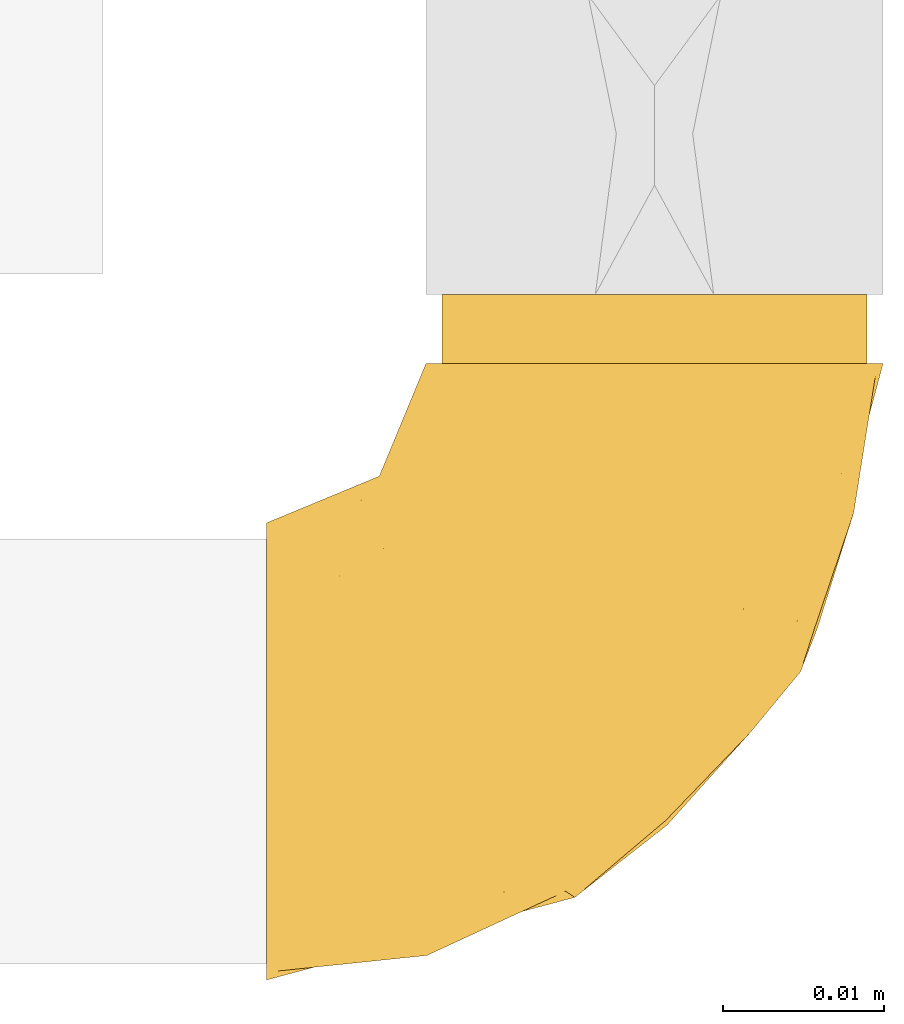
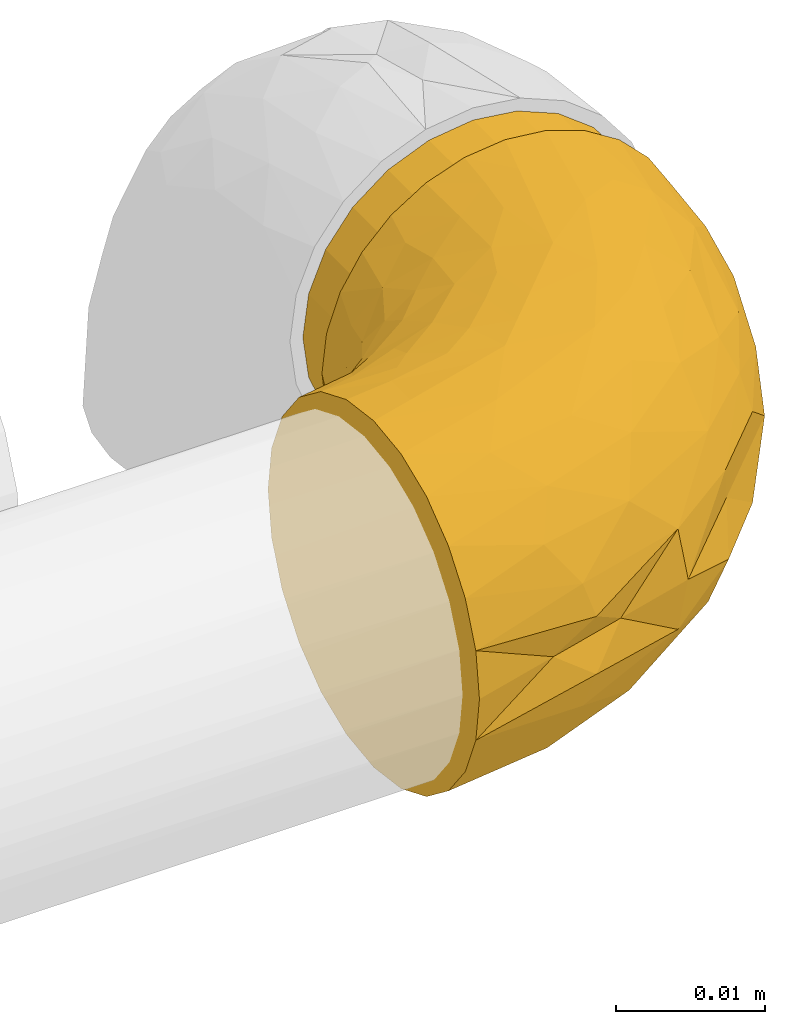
# One storey, part 3 of 4: 2 coverings.
"""IFC2X3 building model written with IfcOpenShell, lengths in metres."""

from ifc_helpers import new_model, entity, si_unit, converted_unit, derived_unit, direction, frame, origin, place, context, subcontext, project, spatial, faceted_brep, material, type_object, element, save


model = new_model("IFC2X3")

# Units and contexts
model_context = context("Model", 3, precision=1e-05, world=origin(), true_north=direction((6.123031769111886e-17, 1.0)))
body_context = subcontext(model_context, "Body", "Model", "MODEL_VIEW")
ifc_project = project(units=[si_unit("LENGTHUNIT", "METRE"), si_unit("AREAUNIT", "SQUARE_METRE"), si_unit("VOLUMEUNIT", "CUBIC_METRE"), converted_unit("PLANEANGLEUNIT", "DEGREE", entity("IfcPlaneAngleMeasure", 0.017453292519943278), si_unit("PLANEANGLEUNIT", "RADIAN"), dimensions=[0, 0, 0, 0, 0, 0, 0]), si_unit("MASSUNIT", "GRAM", prefix="KILO"), derived_unit("MASSDENSITYUNIT", [(si_unit("MASSUNIT", "GRAM", prefix="KILO"), 1), (si_unit("LENGTHUNIT", "METRE"), -3)]), derived_unit("IONCONCENTRATIONUNIT", [(si_unit("MASSUNIT", "GRAM", prefix="KILO"), 1), (si_unit("LENGTHUNIT", "METRE"), -3)]), derived_unit("MOMENTOFINERTIAUNIT", [(si_unit("LENGTHUNIT", "METRE"), 4)]), si_unit("TIMEUNIT", "SECOND"), si_unit("FREQUENCYUNIT", "HERTZ"), si_unit("THERMODYNAMICTEMPERATUREUNIT", "DEGREE_CELSIUS"), derived_unit("THERMALTRANSMITTANCEUNIT", [(si_unit("MASSUNIT", "GRAM", prefix="KILO"), 1), (si_unit("THERMODYNAMICTEMPERATUREUNIT", "KELVIN"), -1), (si_unit("TIMEUNIT", "SECOND"), -3)]), derived_unit("THERMALCONDUCTANCEUNIT", [(si_unit("MASSUNIT", "GRAM", prefix="KILO"), 1), (si_unit("THERMODYNAMICTEMPERATUREUNIT", "KELVIN"), -1), (si_unit("TIMEUNIT", "SECOND"), -3), (si_unit("LENGTHUNIT", "METRE"), 1)]), derived_unit("VOLUMETRICFLOWRATEUNIT", [(si_unit("LENGTHUNIT", "METRE", prefix="DECI"), 3), (si_unit("TIMEUNIT", "SECOND"), -1)]), derived_unit("MASSFLOWRATEUNIT", [(si_unit("MASSUNIT", "GRAM", prefix="KILO"), 1), (si_unit("TIMEUNIT", "SECOND"), -1)]), derived_unit("ROTATIONALFREQUENCYUNIT", [(si_unit("TIMEUNIT", "SECOND"), -1)]), si_unit("ELECTRICCURRENTUNIT", "AMPERE"), si_unit("ELECTRICVOLTAGEUNIT", "VOLT"), si_unit("POWERUNIT", "WATT"), si_unit("FORCEUNIT", "NEWTON", prefix="KILO"), si_unit("ILLUMINANCEUNIT", "LUX"), si_unit("LUMINOUSFLUXUNIT", "LUMEN"), si_unit("LUMINOUSINTENSITYUNIT", "CANDELA"), si_unit("ENERGYUNIT", "JOULE"), derived_unit("USERDEFINED", [(si_unit("MASSUNIT", "GRAM", prefix="KILO"), -1), (si_unit("LENGTHUNIT", "METRE"), -2), (si_unit("TIMEUNIT", "SECOND"), 3), (si_unit("LUMINOUSFLUXUNIT", "LUMEN"), 1)]), derived_unit("USERDEFINED", [(si_unit("MASSUNIT", "GRAM", prefix="KILO"), 1), (si_unit("TIMEUNIT", "SECOND"), -3), (si_unit("LENGTHUNIT", "METRE"), 3), (si_unit("ELECTRICCURRENTUNIT", "AMPERE"), -2)]), derived_unit("SOUNDPOWERUNIT", [(si_unit("MASSUNIT", "GRAM", prefix="KILO"), 1), (si_unit("TIMEUNIT", "SECOND"), -3), (si_unit("LENGTHUNIT", "METRE"), 2)]), derived_unit("SOUNDPRESSUREUNIT", [(si_unit("MASSUNIT", "GRAM", prefix="KILO"), 1), (si_unit("LENGTHUNIT", "METRE"), -1), (si_unit("TIMEUNIT", "SECOND"), -2)]), derived_unit("LINEARVELOCITYUNIT", [(si_unit("LENGTHUNIT", "METRE"), 1), (si_unit("TIMEUNIT", "SECOND"), -1)]), si_unit("PRESSUREUNIT", "PASCAL"), derived_unit("USERDEFINED", [(si_unit("MASSUNIT", "GRAM", prefix="KILO"), 1), (si_unit("LENGTHUNIT", "METRE"), -2), (si_unit("TIMEUNIT", "SECOND"), -2)]), derived_unit("LINEARFORCEUNIT", [(si_unit("MASSUNIT", "GRAM", prefix="KILO"), 1), (si_unit("TIMEUNIT", "SECOND"), -2)]), derived_unit("PLANARFORCEUNIT", [(si_unit("MASSUNIT", "GRAM", prefix="KILO"), 1), (si_unit("LENGTHUNIT", "METRE"), -1), (si_unit("TIMEUNIT", "SECOND"), -2)]), derived_unit("SPECIFICHEATCAPACITYUNIT", [(si_unit("THERMODYNAMICTEMPERATUREUNIT", "KELVIN"), -1), (si_unit("LENGTHUNIT", "METRE"), 2), (si_unit("TIMEUNIT", "SECOND"), -2)]), derived_unit("HEATFLUXDENSITYUNIT", [(si_unit("MASSUNIT", "GRAM", prefix="KILO"), 1), (si_unit("TIMEUNIT", "SECOND"), -3)]), derived_unit("HEATINGVALUEUNIT", [(si_unit("LENGTHUNIT", "METRE"), 2), (si_unit("TIMEUNIT", "SECOND"), -2)]), derived_unit("VAPORPERMEABILITYUNIT", [(si_unit("LENGTHUNIT", "METRE"), -1), (si_unit("TIMEUNIT", "SECOND"), 1)]), derived_unit("DYNAMICVISCOSITYUNIT", [(si_unit("MASSUNIT", "GRAM", prefix="KILO"), 1), (si_unit("TIMEUNIT", "SECOND"), -1), (si_unit("LENGTHUNIT", "METRE"), -1)]), derived_unit("THERMALEXPANSIONCOEFFICIENTUNIT", [(si_unit("THERMODYNAMICTEMPERATUREUNIT", "KELVIN"), -1)]), derived_unit("MODULUSOFELASTICITYUNIT", [(si_unit("MASSUNIT", "GRAM", prefix="KILO"), 1), (si_unit("LENGTHUNIT", "METRE"), -1), (si_unit("TIMEUNIT", "SECOND"), -2)]), derived_unit("ISOTHERMALMOISTURECAPACITYUNIT", [(si_unit("MASSUNIT", "GRAM", prefix="KILO"), -1), (si_unit("LENGTHUNIT", "METRE"), 3)]), derived_unit("MOISTUREDIFFUSIVITYUNIT", [(si_unit("TIMEUNIT", "SECOND"), -1), (si_unit("LENGTHUNIT", "METRE"), 2)]), derived_unit("MASSPERLENGTHUNIT", [(si_unit("MASSUNIT", "GRAM", prefix="KILO"), 1), (si_unit("LENGTHUNIT", "METRE"), -1)]), derived_unit("THERMALRESISTANCEUNIT", [(si_unit("MASSUNIT", "GRAM", prefix="KILO"), -1), (si_unit("TIMEUNIT", "SECOND"), 3), (si_unit("THERMODYNAMICTEMPERATUREUNIT", "KELVIN"), 1)]), derived_unit("ACCELERATIONUNIT", [(si_unit("LENGTHUNIT", "METRE"), 1), (si_unit("TIMEUNIT", "SECOND"), -2)]), derived_unit("ANGULARVELOCITYUNIT", [(si_unit("TIMEUNIT", "SECOND"), -1), (si_unit("PLANEANGLEUNIT", "RADIAN"), 1)]), derived_unit("LINEARSTIFFNESSUNIT", [(si_unit("MASSUNIT", "GRAM", prefix="KILO"), 1), (si_unit("TIMEUNIT", "SECOND"), -2)]), derived_unit("WARPINGCONSTANTUNIT", [(si_unit("LENGTHUNIT", "METRE"), 6)]), derived_unit("LINEARMOMENTUNIT", [(si_unit("MASSUNIT", "GRAM", prefix="KILO"), 1), (si_unit("LENGTHUNIT", "METRE"), 1), (si_unit("TIMEUNIT", "SECOND"), -2)]), derived_unit("TORQUEUNIT", [(si_unit("MASSUNIT", "GRAM", prefix="KILO"), 1), (si_unit("LENGTHUNIT", "METRE"), 2), (si_unit("TIMEUNIT", "SECOND"), -2)])], contexts=[model_context])

# Site, building, storey
site_placement = place(None, origin())
site = spatial("IfcSite", under=ifc_project, at=site_placement, Name="Default", CompositionType="ELEMENT")
building_placement = place(site_placement, origin())
building = spatial("IfcBuilding", under=site, at=building_placement, CompositionType="ELEMENT")
storey_placement = place(building_placement, frame((0.0, 0.0, 2.4999999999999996)))
storey = spatial("IfcBuildingStorey", under=building, at=storey_placement, Name="Niveau 1", CompositionType="ELEMENT", Elevation=2.4999999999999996)

# Coverings
ifc_material = material(Name="Matériau du rendu 255-255-255")
covering_type = type_object("IfcCoveringType", Name="Isolation des canalisations:Par défaut", PredefinedType="INSULATION")
covering_1_placement = place(storey_placement, frame((-13.600996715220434, 2.7237312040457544, -0.07079527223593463)))
element("IfcCovering", 1, at=covering_1_placement, inside=storey, type_object=covering_type, material=ifc_material, Name="Isolation des canalisations:Par défaut", ObjectType="Isolation des canalisations:Par défaut", PredefinedType="INSULATION", context=body_context, shape_type="Brep", body=[
    faceted_brep([(0.02885664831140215, 0.03989527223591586, 0.029638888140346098), (0.031858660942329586, 0.03989527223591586, 0.028587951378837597), (0.034550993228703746, 0.03989527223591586, 0.02689555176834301), (0.036798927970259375, 0.03989527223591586, 0.02464675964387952), (0.03849001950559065, 0.03989527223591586, 0.02195436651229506), (0.039539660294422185, 0.03989527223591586, 0.018953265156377), (0.039895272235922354, 0.03989527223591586, 0.01579527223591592), (0.03953888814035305, 0.03989527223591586, 0.012633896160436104), (0.03848795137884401, 0.03989527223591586, 0.009631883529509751), (0.036795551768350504, 0.03989527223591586, 0.00693955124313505), (0.0345467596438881, 0.03989527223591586, 0.004691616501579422), (0.031854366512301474, 0.03989527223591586, 0.0030005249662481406), (0.028853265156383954, 0.03989527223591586, 0.0019508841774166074), (0.025695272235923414, 0.03989527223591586, 0.0015952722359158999), (0.022533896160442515, 0.03989527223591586, 0.0019516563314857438), (0.019531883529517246, 0.03989527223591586, 0.0030025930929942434), (0.016839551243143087, 0.03989527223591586, 0.00469499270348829), (0.014591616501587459, 0.03989527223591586, 0.006943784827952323), (0.012900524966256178, 0.03989527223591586, 0.009636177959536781), (0.011850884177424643, 0.03989527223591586, 0.01263727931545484), (0.011495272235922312, 0.03989527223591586, 0.01579527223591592), (0.01185165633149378, 0.03989527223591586, 0.01895664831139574), (0.012902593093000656, 0.03989527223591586, 0.02195866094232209), (0.014594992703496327, 0.03989527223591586, 0.02465099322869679), (0.016843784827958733, 0.03989527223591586, 0.02689892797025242), (0.019536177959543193, 0.03989527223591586, 0.0285900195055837), (0.02253727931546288, 0.03989527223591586, 0.029639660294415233), (0.025695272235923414, 0.03989527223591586, 0.02999527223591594), (0.0015952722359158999, 0.029511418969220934, 0.012120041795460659), (0.0015952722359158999, 0.028092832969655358, 0.00869527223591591), (0.0015952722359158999, 0.02583618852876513, 0.005754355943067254), (0.0015952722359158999, 0.02289527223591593, 0.0034977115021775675), (0.0015952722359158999, 0.019470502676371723, 0.00207912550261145), (0.0015952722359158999, 0.01579527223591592, 0.0015952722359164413), (0.0015952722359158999, 0.012120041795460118, 0.00207912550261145), (0.0015952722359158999, 0.00869527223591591, 0.0034977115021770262), (0.0015952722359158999, 0.005754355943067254, 0.005754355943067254), (0.0015952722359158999, 0.0034977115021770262, 0.00869527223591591), (0.0015952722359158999, 0.00207912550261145, 0.012120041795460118), (0.0015952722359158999, 0.0015952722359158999, 0.01579527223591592), (0.0015952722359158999, 0.00207912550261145, 0.019470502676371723), (0.0015952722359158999, 0.0034977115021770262, 0.02289527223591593), (0.0015952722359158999, 0.005754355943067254, 0.02583618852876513), (0.0015952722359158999, 0.00869527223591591, 0.028092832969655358), (0.0015952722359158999, 0.012120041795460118, 0.029511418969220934), (0.0015952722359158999, 0.01579527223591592, 0.02999527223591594), (0.0015952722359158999, 0.019470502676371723, 0.029511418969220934), (0.0015952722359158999, 0.02289527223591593, 0.028092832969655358), (0.0015952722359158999, 0.02583618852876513, 0.02583618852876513), (0.0015952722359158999, 0.028092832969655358, 0.02289527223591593), (0.0015952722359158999, 0.029511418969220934, 0.019470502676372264), (0.0015952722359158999, 0.02999527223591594, 0.015795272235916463), (0.027048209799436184, 0.03146698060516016, 0.029733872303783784), (0.01155834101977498, 0.0031203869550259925, 0.01816666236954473), (0.008375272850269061, 0.003411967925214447, 0.01579527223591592), (0.014560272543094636, 0.00506923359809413, 0.01579527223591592), (0.014682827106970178, 0.011886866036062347, 0.028252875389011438), (0.010357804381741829, 0.007682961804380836, 0.02654090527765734), (0.018634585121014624, 0.010723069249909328, 0.026180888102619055), (0.02405349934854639, 0.024625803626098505, 0.029662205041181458), (0.022466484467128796, 0.027845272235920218, 0.02999527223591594), (0.03807237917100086, 0.030629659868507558, 0.02008831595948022), (0.03458658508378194, 0.02392756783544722, 0.022434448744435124), (0.03564178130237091, 0.02345906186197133, 0.01950717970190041), (0.020408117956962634, 0.018688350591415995, 0.029344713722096), (0.018055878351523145, 0.023434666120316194, 0.02999527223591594), (0.016364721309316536, 0.007069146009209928, 0.023549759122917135), (0.010797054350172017, 0.0036578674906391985, 0.02080360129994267), (0.020172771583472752, 0.0071057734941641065, 0.019923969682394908), (0.0074916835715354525, 0.010332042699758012, 0.028644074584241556), (0.010237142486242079, 0.014222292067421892, 0.029677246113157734), (0.025582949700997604, 0.012450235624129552, 0.022802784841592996), (0.013645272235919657, 0.019024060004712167, 0.02999527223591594), (0.010976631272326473, 0.0183089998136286, 0.02999527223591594), (0.008307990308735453, 0.017593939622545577, 0.02999527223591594), (0.007620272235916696, 0.017409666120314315, 0.02999527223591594), (0.004951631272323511, 0.01669460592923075, 0.029995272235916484), (0.025175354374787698, 0.02208875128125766, 0.028908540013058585), (0.02155615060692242, 0.0157517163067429, 0.028018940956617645), (0.026742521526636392, 0.020432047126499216, 0.027726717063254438), (0.03307723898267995, 0.03292603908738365, 0.02742768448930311), (0.034991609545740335, 0.030551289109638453, 0.02526771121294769), (0.037297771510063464, 0.0330552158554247, 0.02297391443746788), (0.03642131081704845, 0.026930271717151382, 0.01579527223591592), (0.030395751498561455, 0.03354339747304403, 0.028931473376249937), (0.02873854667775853, 0.026409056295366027, 0.02856587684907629), (0.008485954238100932, 0.004907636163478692, 0.02404225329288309), (0.02479593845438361, 0.03653891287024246, 0.02999527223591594), (0.024080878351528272, 0.03387027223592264, 0.02999527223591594), (0.023896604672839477, 0.033182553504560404, 0.02999527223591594), (0.023181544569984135, 0.03051391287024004, 0.02999527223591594), (0.031219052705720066, 0.024636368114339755, 0.0265925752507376), (0.030558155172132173, 0.019588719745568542, 0.024430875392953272), (0.03807857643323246, 0.03311527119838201, 0.01579527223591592), (0.025554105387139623, 0.016105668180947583, 0.026199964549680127), (0.02775465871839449, 0.013735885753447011, 0.01579527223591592), (0.03476404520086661, 0.02074527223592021, 0.01579527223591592), (0.03164333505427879, 0.016963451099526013, 0.019534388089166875), (0.02074527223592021, 0.006726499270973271, 0.01579527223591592), (0.02639706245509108, 0.011513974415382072, 0.01990856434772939), (0.03130855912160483, 0.01814369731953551, 0.02209913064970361), (0.015850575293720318, 0.02122936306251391, 0.02999527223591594), (0.02026118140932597, 0.025639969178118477, 0.02999527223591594), (0.019055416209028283, 0.030232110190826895, 0.029377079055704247), (0.01941299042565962, 0.03504783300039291, 0.0288294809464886), (0.016324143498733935, 0.033347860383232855, 0.02753992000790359), (0.010083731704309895, 0.020600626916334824, 0.029670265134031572), (0.005334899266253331, 0.019902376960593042, 0.02948832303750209), (0.006124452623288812, 0.026696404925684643, 0.025730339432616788), (0.008851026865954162, 0.028391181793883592, 0.02535629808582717), (0.006997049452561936, 0.02955694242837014, 0.022650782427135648), (0.01197247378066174, 0.025886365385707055, 0.028333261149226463), (0.012855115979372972, 0.02249376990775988, 0.029588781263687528), (0.015604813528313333, 0.025039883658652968, 0.02950996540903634), (0.003990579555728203, 0.028891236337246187, 0.021863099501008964), (0.006747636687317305, 0.021581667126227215, 0.02905725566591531), (0.00477823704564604, 0.024031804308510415, 0.02758119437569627), (0.007441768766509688, 0.031378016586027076, 0.019266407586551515), (0.008595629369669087, 0.03289491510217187, 0.01579527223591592), (0.005095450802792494, 0.03144509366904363, 0.01579527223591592), (0.009650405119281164, 0.03317880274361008, 0.01983888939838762), (0.022275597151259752, 0.036552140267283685, 0.02964120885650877), (0.010954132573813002, 0.035689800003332, 0.018973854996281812), (0.011348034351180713, 0.03423455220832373, 0.021894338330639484), (0.012210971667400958, 0.03722732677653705, 0.021143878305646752), (0.013823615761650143, 0.03578073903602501, 0.02452710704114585), (0.012045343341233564, 0.032410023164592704, 0.024465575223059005), (0.009717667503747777, 0.031437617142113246, 0.02276166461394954), (0.016254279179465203, 0.036925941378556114, 0.026659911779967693), (0.02184288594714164, 0.03340468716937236, 0.029708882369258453), (0.004526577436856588, 0.030103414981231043, 0.01879844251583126), (0.010045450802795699, 0.036395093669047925, 0.01579527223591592), (0.015405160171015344, 0.028851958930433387, 0.0284623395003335), (0.01410895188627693, 0.031813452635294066, 0.026609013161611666), (0.008820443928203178, 0.025603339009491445, 0.02746848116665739), (0.008460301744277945, 0.02326573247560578, 0.028613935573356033), (0.017780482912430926, 0.027264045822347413, 0.029539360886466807), (0.01188097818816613, 0.029734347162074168, 0.026220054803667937), (0.009715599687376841, 0.031438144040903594, 0.008832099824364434), (0.007441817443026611, 0.03137796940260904, 0.012323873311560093), (0.009649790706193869, 0.03318033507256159, 0.011756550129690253), (0.024795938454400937, 0.036538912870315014, 0.0015952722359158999), (0.004806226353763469, 0.02987116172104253, 0.01162612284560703), (0.010976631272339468, 0.01830899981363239, 0.0015952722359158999), (0.010083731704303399, 0.020600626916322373, 0.001920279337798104), (0.013645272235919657, 0.019024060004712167, 0.0015952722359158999), (0.004199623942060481, 0.028677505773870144, 0.009216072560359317), (0.005334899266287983, 0.01990237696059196, 0.002102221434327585), (0.0049516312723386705, 0.016694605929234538, 0.0015952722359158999), (0.011877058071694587, 0.02973849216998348, 0.005375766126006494), (0.01539894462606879, 0.028856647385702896, 0.0031321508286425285), (0.011966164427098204, 0.025891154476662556, 0.0032613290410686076), (0.008460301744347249, 0.023265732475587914, 0.002976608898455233), (0.006747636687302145, 0.02158166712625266, 0.0025332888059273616), (0.00477823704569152, 0.024031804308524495, 0.004009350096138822), (0.006123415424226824, 0.026696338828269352, 0.005860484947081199), (0.008848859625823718, 0.028391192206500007, 0.00623552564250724), (0.006993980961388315, 0.029555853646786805, 0.008940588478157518), (0.012209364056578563, 0.03722818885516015, 0.010451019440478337), (0.01095411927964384, 0.03569117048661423, 0.012619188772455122), (0.019407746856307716, 0.035048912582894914, 0.002763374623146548), (0.022272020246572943, 0.036550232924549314, 0.0019500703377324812), (0.013820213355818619, 0.03578262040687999, 0.007068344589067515), (0.024080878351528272, 0.03387027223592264, 0.0015952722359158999), (0.02389660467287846, 0.03318255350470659, 0.0015952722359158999), (0.01905004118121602, 0.030228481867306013, 0.0022143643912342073), (0.016318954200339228, 0.03335039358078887, 0.004054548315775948), (0.016249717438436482, 0.036927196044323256, 0.004934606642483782), (0.011346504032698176, 0.03423654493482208, 0.009701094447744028), (0.01204243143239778, 0.03241284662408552, 0.007130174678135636), (0.008816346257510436, 0.025602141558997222, 0.004122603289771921), (0.01285993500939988, 0.02249765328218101, 0.002001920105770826), (0.02318154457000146, 0.030513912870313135, 0.0015952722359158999), (0.022466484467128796, 0.027845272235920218, 0.0015952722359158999), (0.021177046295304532, 0.031866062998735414, 0.0019021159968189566), (0.014104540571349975, 0.03181664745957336, 0.004986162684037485), (0.017767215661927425, 0.02727960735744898, 0.002056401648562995), (0.018055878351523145, 0.023434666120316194, 0.0015952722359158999), (0.015607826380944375, 0.02505454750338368, 0.002082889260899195), (0.02026118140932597, 0.025639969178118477, 0.0015952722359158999), (0.015850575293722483, 0.02122936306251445, 0.0015952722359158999), (0.008307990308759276, 0.017593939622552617, 0.0015952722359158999), (0.007620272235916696, 0.017409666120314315, 0.0015952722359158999), (0.010356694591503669, 0.00768274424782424, 0.005049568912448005), (0.014679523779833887, 0.011885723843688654, 0.0033374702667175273), (0.018634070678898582, 0.01072316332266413, 0.005409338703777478), (0.03307315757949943, 0.032926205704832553, 0.004160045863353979), (0.010237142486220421, 0.014222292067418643, 0.0019132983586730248), (0.025592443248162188, 0.012458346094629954, 0.008788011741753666), (0.03164297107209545, 0.01696382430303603, 0.012054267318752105), (0.026466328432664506, 0.011208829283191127, 0.012737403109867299), (0.030556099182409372, 0.01959090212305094, 0.007155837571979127), (0.031215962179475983, 0.024638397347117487, 0.004994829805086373), (0.03498806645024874, 0.030551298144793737, 0.00631902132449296), (0.007489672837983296, 0.010331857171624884, 0.002946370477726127), (0.010798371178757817, 0.0036581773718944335, 0.010787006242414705), (0.016368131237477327, 0.007070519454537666, 0.00804101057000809), (0.02017317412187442, 0.0071058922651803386, 0.011666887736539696), (0.028735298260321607, 0.026410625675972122, 0.003022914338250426), (0.02498476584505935, 0.01938921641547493, 0.00344376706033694), (0.02405391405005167, 0.02462661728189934, 0.0019283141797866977), (0.03807109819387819, 0.03062937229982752, 0.011498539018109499), (0.027046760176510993, 0.031468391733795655, 0.0018563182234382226), (0.008487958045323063, 0.004907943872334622, 0.007548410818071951), (0.03729500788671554, 0.03305363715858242, 0.008612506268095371), (0.03458457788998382, 0.023928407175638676, 0.009151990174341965), (0.020410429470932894, 0.018689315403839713, 0.0022460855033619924), (0.020003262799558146, 0.015393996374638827, 0.0031939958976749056), (0.011558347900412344, 0.0031203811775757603, 0.013423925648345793), (0.025551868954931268, 0.016108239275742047, 0.005387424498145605), (0.030392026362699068, 0.033543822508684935, 0.002657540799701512), (0.03582275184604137, 0.02346964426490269, 0.012727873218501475), (0.03130512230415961, 0.01814165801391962, 0.009488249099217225)], [[[0, 1, 2, 3, 4, 5, 6, 7, 8, 9, 10, 11, 12, 13, 14, 15, 16, 17, 18, 19, 20, 21, 22, 23, 24, 25, 26, 27]], [[28, 29, 30, 31, 32, 33, 34, 35, 36, 37, 38, 39, 40, 41, 42, 43, 44, 45, 46, 47, 48, 49, 50, 51]], [[27, 52, 0]], [[53, 54, 55]], [[56, 57, 58]], [[59, 52, 60]], [[61, 62, 63]], [[64, 59, 65]], [[66, 67, 68]], [[57, 56, 69]], [[70, 45, 44]], [[43, 42, 57]], [[66, 68, 71]], [[70, 72, 73, 74, 75, 76, 45]], [[44, 43, 69]], [[77, 78, 79]], [[80, 81, 2]], [[41, 40, 67]], [[82, 62, 61]], [[2, 81, 3]], [[63, 83, 61]], [[61, 5, 4]], [[84, 52, 85]], [[40, 39, 54]], [[58, 78, 56]], [[66, 86, 67]], [[86, 42, 41]], [[52, 27, 87, 88, 89, 90, 60]], [[91, 92, 81]], [[70, 64, 72]], [[80, 2, 1]], [[93, 5, 61]], [[1, 0, 84]], [[93, 6, 5]], [[81, 80, 91]], [[4, 82, 61]], [[54, 53, 40]], [[82, 4, 3]], [[68, 67, 53]], [[86, 57, 42]], [[58, 94, 78]], [[69, 70, 44]], [[64, 70, 56]], [[78, 64, 56]], [[85, 52, 59]], [[3, 81, 82]], [[62, 82, 81]], [[84, 80, 1]], [[91, 80, 85]], [[79, 91, 85]], [[91, 94, 92]], [[95, 96, 97]], [[94, 58, 71]], [[98, 95, 99]], [[99, 95, 97]], [[92, 62, 81]], [[92, 100, 62]], [[68, 99, 71]], [[52, 84, 0]], [[80, 84, 85]], [[67, 86, 41]], [[57, 86, 66]], [[57, 66, 58]], [[71, 58, 66]], [[64, 65, 101, 72]], [[77, 79, 85]], [[59, 60, 102, 65]], [[94, 71, 92]], [[71, 99, 100]], [[68, 53, 55]], [[98, 68, 55]], [[40, 53, 67]], [[71, 100, 92]], [[63, 100, 97]], [[57, 69, 43]], [[70, 69, 56]], [[100, 63, 62]], [[83, 93, 61]], [[79, 78, 94]], [[91, 79, 94]], [[85, 59, 77]], [[59, 64, 77]], [[78, 77, 64]], [[99, 68, 98]], [[100, 99, 97]], [[97, 96, 63]], [[83, 63, 96]], [[103, 104, 105]], [[72, 106, 73]], [[47, 46, 107]], [[107, 46, 76]], [[108, 109, 110]], [[111, 112, 113]], [[108, 110, 114]], [[47, 115, 116]], [[117, 118, 119]], [[108, 49, 48]], [[118, 117, 120]], [[25, 121, 26]], [[49, 114, 50]], [[122, 123, 124]], [[124, 125, 22]], [[126, 123, 127]], [[128, 104, 24]], [[129, 103, 60]], [[24, 104, 25]], [[27, 26, 87]], [[123, 120, 127]], [[130, 117, 119]], [[107, 76, 75, 74, 73]], [[131, 118, 122, 20]], [[105, 132, 103]], [[21, 124, 22]], [[23, 22, 125]], [[121, 87, 26]], [[126, 133, 125]], [[130, 110, 117]], [[123, 122, 120]], [[128, 24, 23]], [[50, 130, 51]], [[128, 125, 105]], [[129, 121, 104]], [[116, 108, 48]], [[134, 135, 111]], [[135, 112, 111]], [[127, 120, 117]], [[21, 20, 122]], [[125, 124, 123]], [[21, 122, 124]], [[105, 133, 132]], [[136, 103, 132]], [[111, 132, 137]], [[113, 136, 132]], [[111, 137, 109]], [[112, 106, 72]], [[118, 120, 122]], [[127, 117, 110]], [[109, 127, 110]], [[126, 127, 137]], [[133, 126, 137]], [[125, 123, 126]], [[132, 133, 137]], [[125, 133, 105]], [[125, 128, 23]], [[104, 128, 105]], [[113, 101, 65]], [[101, 113, 112]], [[102, 136, 65]], [[132, 111, 113]], [[103, 102, 60]], [[104, 121, 25]], [[121, 89, 88, 87]], [[129, 60, 90, 89]], [[121, 129, 89]], [[115, 107, 106]], [[106, 112, 135]], [[73, 106, 107]], [[106, 135, 115]], [[116, 115, 135]], [[47, 107, 115]], [[116, 135, 134]], [[47, 116, 48]], [[51, 130, 119]], [[130, 50, 114]], [[112, 72, 101]], [[108, 114, 49]], [[130, 114, 110]], [[65, 136, 113]], [[102, 103, 136]], [[46, 45, 76]], [[109, 108, 134]], [[127, 109, 137]], [[109, 134, 111]], [[116, 134, 108]], [[103, 129, 104]], [[138, 139, 140]], [[14, 13, 141]], [[119, 142, 51]], [[139, 142, 119]], [[143, 144, 145]], [[142, 146, 28]], [[147, 148, 32]], [[149, 150, 151]], [[152, 153, 154]], [[118, 139, 119]], [[155, 29, 146]], [[138, 156, 157]], [[158, 159, 19]], [[157, 139, 138]], [[18, 158, 19]], [[160, 15, 161]], [[17, 162, 18]], [[161, 141, 163, 164]], [[160, 165, 166]], [[147, 32, 31]], [[17, 16, 167]], [[168, 158, 162]], [[160, 166, 167]], [[149, 138, 169]], [[170, 156, 151]], [[151, 171, 152]], [[172, 173, 174, 164]], [[14, 161, 15]], [[155, 30, 29]], [[160, 16, 15]], [[19, 159, 20]], [[118, 131, 20, 159]], [[169, 175, 149]], [[167, 162, 17]], [[174, 165, 160]], [[156, 155, 157]], [[155, 170, 154]], [[150, 166, 165]], [[118, 159, 140]], [[142, 139, 157]], [[162, 158, 18]], [[159, 158, 168]], [[159, 168, 140]], [[176, 177, 178]], [[150, 149, 175]], [[176, 178, 150]], [[171, 145, 144]], [[165, 179, 176]], [[170, 151, 152]], [[140, 168, 138]], [[118, 140, 139]], [[169, 138, 168]], [[156, 138, 149]], [[168, 162, 169]], [[175, 162, 166]], [[162, 175, 169]], [[150, 175, 166]], [[160, 167, 16]], [[162, 167, 166]], [[178, 171, 151]], [[178, 180, 171]], [[151, 150, 178]], [[165, 173, 179]], [[176, 150, 165]], [[141, 161, 14]], [[174, 173, 165]], [[174, 161, 164]], [[152, 144, 153]], [[147, 143, 181, 182, 148]], [[147, 153, 144]], [[147, 144, 143]], [[171, 144, 152]], [[147, 31, 153]], [[154, 31, 30]], [[31, 154, 153]], [[155, 154, 30]], [[146, 142, 157]], [[142, 28, 51]], [[155, 146, 157]], [[28, 146, 29]], [[180, 178, 177]], [[180, 145, 171]], [[177, 176, 179]], [[148, 33, 32]], [[151, 156, 149]], [[154, 170, 152]], [[156, 170, 155]], [[161, 174, 160]], [[183, 184, 185]], [[10, 186, 11]], [[187, 33, 148, 182, 181, 143, 145]], [[188, 189, 190]], [[191, 192, 193]], [[34, 194, 35]], [[195, 38, 37]], [[195, 196, 197]], [[194, 183, 35]], [[54, 39, 38]], [[183, 36, 35]], [[98, 55, 197]], [[198, 199, 200]], [[8, 7, 201]], [[200, 173, 202]], [[203, 195, 37]], [[13, 12, 202]], [[36, 203, 37]], [[9, 193, 10]], [[204, 205, 193]], [[187, 206, 207]], [[193, 186, 10]], [[7, 6, 93]], [[55, 208, 197]], [[186, 192, 198]], [[201, 204, 8]], [[192, 199, 198]], [[192, 191, 209]], [[202, 173, 172, 164, 163, 141, 13]], [[7, 93, 201]], [[210, 202, 12]], [[204, 9, 8]], [[33, 187, 34]], [[11, 210, 12]], [[83, 96, 211]], [[207, 206, 199]], [[38, 195, 208]], [[207, 185, 184]], [[203, 183, 196]], [[206, 187, 145]], [[194, 187, 184]], [[206, 177, 200]], [[206, 200, 199]], [[205, 204, 201]], [[193, 9, 204]], [[192, 186, 193]], [[210, 186, 198]], [[191, 193, 205]], [[199, 192, 209]], [[196, 185, 188]], [[190, 98, 197]], [[197, 196, 188]], [[95, 189, 96]], [[211, 205, 201]], [[190, 189, 95]], [[212, 188, 191]], [[186, 210, 11]], [[202, 210, 198]], [[183, 203, 36]], [[195, 203, 196]], [[188, 185, 209]], [[196, 183, 185]], [[198, 200, 202]], [[212, 191, 205]], [[206, 145, 180, 177]], [[200, 177, 179, 173]], [[188, 209, 191]], [[38, 208, 54]], [[54, 208, 55]], [[197, 208, 195]], [[205, 189, 212]], [[188, 212, 189]], [[187, 194, 34]], [[183, 194, 184]], [[189, 211, 96]], [[201, 93, 83]], [[209, 185, 207]], [[207, 199, 209]], [[187, 207, 184]], [[98, 190, 95]], [[188, 190, 197]], [[205, 211, 189]], [[83, 211, 201]]]),
])
covering_2_placement = place(storey_placement, frame((-13.590096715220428, 2.7636264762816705, -0.06979527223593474)))
element("IfcCovering", 2, at=covering_2_placement, inside=storey, type_object=covering_type, material=ifc_material, Name="Isolation des canalisations:Par défaut", ObjectType="Isolation des canalisations:Par défaut", PredefinedType="INSULATION", context=body_context, shape_type="Brep", body=[
    faceted_brep([(0.005461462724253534, 0.0, 0.005461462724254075), (0.008195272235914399, 0.0, 0.0033637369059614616), (0.011378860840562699, 0.0, 0.0020450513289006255), (0.014795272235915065, 0.0, 0.0015952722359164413), (0.018211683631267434, 0.0, 0.0020450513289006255), (0.02139527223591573, 0.0, 0.0033637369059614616), (0.024129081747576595, 0.0, 0.005461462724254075), (0.026226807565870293, 0.0, 0.008195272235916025), (0.02754549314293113, 0.0, 0.011378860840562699), (0.02799527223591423, 0.0, 0.014795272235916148), (0.02754549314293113, 0.0, 0.0182116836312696), (0.026226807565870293, 0.0, 0.021395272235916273), (0.024129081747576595, 0.0, 0.024129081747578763), (0.02139527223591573, 0.0, 0.026226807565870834), (0.018211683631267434, 0.0, 0.02754549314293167), (0.014795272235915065, 0.0, 0.027995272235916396), (0.011378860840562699, 0.0, 0.02754549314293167), (0.008195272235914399, 0.0, 0.026226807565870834), (0.005461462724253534, 0.0, 0.024129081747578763), (0.003363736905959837, 0.0, 0.021395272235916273), (0.002045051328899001, 0.0, 0.0182116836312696), (0.0015952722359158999, 0.0, 0.014795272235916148), (0.002045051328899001, 0.0, 0.011378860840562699), (0.003363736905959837, 0.0, 0.008195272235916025), (0.011378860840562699, 0.004300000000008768, 0.0020450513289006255), (0.008195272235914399, 0.004300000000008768, 0.0033637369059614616), (0.005461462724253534, 0.004300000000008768, 0.005461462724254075), (0.003363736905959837, 0.004300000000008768, 0.008195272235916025), (0.002045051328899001, 0.004300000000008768, 0.011378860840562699), (0.0015952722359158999, 0.004300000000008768, 0.014795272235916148), (0.002045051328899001, 0.004300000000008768, 0.0182116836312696), (0.003363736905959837, 0.004300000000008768, 0.021395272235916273), (0.005461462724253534, 0.004300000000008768, 0.024129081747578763), (0.008195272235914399, 0.004300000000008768, 0.026226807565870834), (0.011378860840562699, 0.004300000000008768, 0.02754549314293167), (0.014795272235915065, 0.004300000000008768, 0.027995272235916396), (0.018211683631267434, 0.004300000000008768, 0.02754549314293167), (0.02139527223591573, 0.004300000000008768, 0.026226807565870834), (0.024129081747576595, 0.004300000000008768, 0.024129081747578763), (0.026226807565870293, 0.004300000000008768, 0.021395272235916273), (0.02754549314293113, 0.004300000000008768, 0.0182116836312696), (0.02799527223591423, 0.004300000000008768, 0.014795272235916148), (0.02754549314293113, 0.004300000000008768, 0.011378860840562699), (0.026226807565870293, 0.004300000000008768, 0.008195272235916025), (0.024129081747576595, 0.004300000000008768, 0.005461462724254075), (0.02139527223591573, 0.004300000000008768, 0.0033637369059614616), (0.018211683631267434, 0.004300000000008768, 0.0020450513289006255), (0.014795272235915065, 0.004300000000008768, 0.0015952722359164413)], [[[0, 1, 2, 3, 4, 5, 6, 7, 8, 9, 10, 11, 12, 13, 14, 15, 16, 17, 18, 19, 20, 21, 22, 23]], [[24, 25, 26, 27, 28, 29, 30, 31, 32, 33, 34, 35, 36, 37, 38, 39, 40, 41, 42, 43, 44, 45, 46, 47]], [[21, 29, 28, 22]], [[22, 28, 27, 23]], [[23, 27, 26, 0]], [[1, 25, 24, 2]], [[2, 24, 47, 3]], [[0, 26, 25, 1]], [[3, 47, 46, 4]], [[4, 46, 45, 5]], [[5, 45, 44, 6]], [[7, 43, 42, 8]], [[8, 42, 41, 9]], [[6, 44, 43, 7]], [[9, 41, 40, 10]], [[10, 40, 39, 11]], [[11, 39, 38, 12]], [[13, 37, 36, 14]], [[14, 36, 35, 15]], [[12, 38, 37, 13]], [[15, 35, 34, 16]], [[16, 34, 33, 17]], [[17, 33, 32, 18]], [[19, 31, 30, 20]], [[20, 30, 29, 21]], [[18, 32, 31, 19]]]),
])

save(model, "model.ifc")
